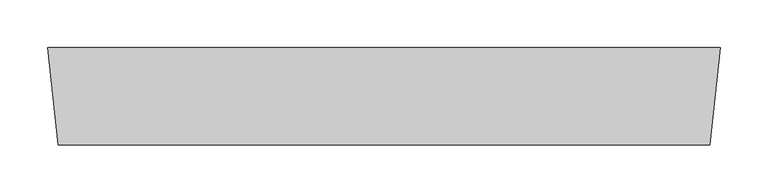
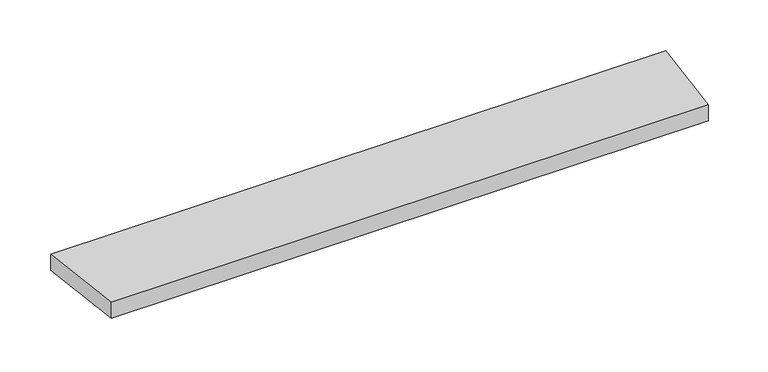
"""IFC4 building model written with IfcOpenShell, lengths in millimetres: proxy geometry, IMPRESS^TABLE 4_2 PC TOP PWR DRAWERS-END KEEL."""

import ifcopenshell
import ifcopenshell.guid

model = None  # the IFC model being written
_history = None  # IfcOwnerHistory: only IFC2X3 demands one
_inside = {}  # id of a spatial element -> (the spatial element, [elements in it])
_under = {}  # id of a project, library or spatial element -> (it, [spatial elements below it])
_declared = {}  # id of a project -> (the project, [libraries it declares])
_typed = {}  # id of a type object -> (the type object, [elements of that type])
_made_of = {}  # id of a material, layer set ... -> (it, [elements and type objects made of it])


def new_model(schema):
    """Start an empty IFC model of exactly this schema.

    Asked for "IFC4X3", IfcOpenShell would pick the latest addendum, in which some entities
    have other attributes; the version numbers below select the first issue.
    IFC2X3 requires an IfcOwnerHistory on every rooted entity: one is made here for all.
    """
    global model, _history
    if schema == "IFC4X3":
        model = ifcopenshell.file(schema_version=(4, 3, 0, 0))
    else:
        model = ifcopenshell.file(schema=schema)
    _inside.clear()
    _under.clear()
    _declared.clear()
    _typed.clear()
    _made_of.clear()
    _history = None
    if model.schema == "IFC2X3":
        org = make("IfcOrganization", Name="unknown")
        user = make(
            "IfcPersonAndOrganization",
            ThePerson=make("IfcPerson", FamilyName="unknown"),
            TheOrganization=org,
        )
        app = make(
            "IfcApplication",
            ApplicationDeveloper=org,
            Version="unknown",
            ApplicationFullName="unknown",
            ApplicationIdentifier="unknown",
        )
        _history = make(
            "IfcOwnerHistory",
            OwningUser=user,
            OwningApplication=app,
            ChangeAction="ADDED",
            CreationDate=0,
        )
    return model


def make(cls, **values):
    """One entity of the class cls with the attributes given. An attribute that is None is left unset."""
    return model.create_entity(
        cls, **{name: value for name, value in values.items() if value is not None}
    )


def rooted(cls, **values):
    """An entity with a GlobalId (a new one), such as an element, a storey or a relation."""
    return make(cls, GlobalId=ifcopenshell.guid.new(), OwnerHistory=_history, **values)


def si_unit(unit_type, name, prefix=None):
    """IfcSIUnit, for example si_unit("LENGTHUNIT", "METRE", prefix="MILLI")."""
    return make("IfcSIUnit", UnitType=unit_type, Prefix=prefix, Name=name)


def assignment(units):
    """IfcUnitAssignment: the units of a project."""
    return None if units is None else make("IfcUnitAssignment", Units=units)


def point(xyz):
    """IfcCartesianPoint."""
    return None if xyz is None else make("IfcCartesianPoint", Coordinates=xyz)


def direction(xyz):
    """IfcDirection."""
    return None if xyz is None else make("IfcDirection", DirectionRatios=xyz)


def frame(location, z_axis=None, x_axis=None):
    """IfcAxis2Placement3D, a coordinate frame: its origin and axes. An axis left out is left unset."""
    return make(
        "IfcAxis2Placement3D",
        Location=point(location),
        Axis=direction(z_axis),
        RefDirection=direction(x_axis),
    )


def origin():
    """The frame at (0, 0, 0) with its axes left unset."""
    return frame((0.0, 0.0, 0.0))


def origin_with_axes():
    """The frame at (0, 0, 0) with the z axis (0, 0, 1) and the x axis (1, 0, 0) written out."""
    return frame((0.0, 0.0, 0.0), z_axis=(0.0, 0.0, 1.0), x_axis=(1.0, 0.0, 0.0))


def place(relative_to, where):
    """IfcLocalPlacement: puts the frame where relative to a parent placement (None: the world)."""
    return make(
        "IfcLocalPlacement", PlacementRelTo=relative_to, RelativePlacement=where
    )


def context(
    kind, dimensions, precision=None, world=None, true_north=None, identifier=None
):
    """IfcGeometricRepresentationContext, for example the 3D "Model" context."""
    return make(
        "IfcGeometricRepresentationContext",
        ContextIdentifier=identifier,
        ContextType=kind,
        CoordinateSpaceDimension=dimensions,
        Precision=precision,
        WorldCoordinateSystem=world,
        TrueNorth=true_north,
    )


def project(units=None, contexts=None):
    """IfcProject with its units and contexts."""
    return rooted(
        "IfcProject",
        Name="project",
        RepresentationContexts=contexts,
        UnitsInContext=assignment(units),
    )


def spatial(cls, under=None, at=None, **own):
    """A site, building, storey or space (cls), placed at a placement, below another one or the project."""
    s = rooted(cls, ObjectPlacement=at, **own)
    if under is not None:
        _under.setdefault(under.id(), (under, []))[1].append(s)
    return s


def polyline(points):
    """IfcPolyline through the points."""
    return make("IfcPolyline", Points=[point(p) for p in points])


def outline(outer, holes=None, kind="AREA"):
    """IfcArbitraryClosedProfileDef: a profile drawn as a closed curve; with holes, ...WithVoids."""
    if holes is None:
        return make("IfcArbitraryClosedProfileDef", ProfileType=kind, OuterCurve=outer)
    return make(
        "IfcArbitraryProfileDefWithVoids",
        ProfileType=kind,
        OuterCurve=outer,
        InnerCurves=holes,
    )


def extrude(swept, where, along, depth):
    """IfcExtrudedAreaSolid: the profile swept, set in the frame where, extruded along a direction by depth."""
    return make(
        "IfcExtrudedAreaSolid",
        SweptArea=swept,
        Position=where,
        ExtrudedDirection=direction(along),
        Depth=depth,
    )


def shape(context_of_items, identifier, shape_type, items):
    """IfcShapeRepresentation: the items that make up one representation, for example the "Body"."""
    return make(
        "IfcShapeRepresentation",
        ContextOfItems=context_of_items,
        RepresentationIdentifier=identifier,
        RepresentationType=shape_type,
        Items=items,
    )


def source(mapping_origin, context_of_items, identifier, shape_type, items):
    """IfcRepresentationMap: a shape defined once, which mapped items show again and again."""
    return make(
        "IfcRepresentationMap",
        MappingOrigin=mapping_origin,
        MappedRepresentation=shape(context_of_items, identifier, shape_type, items),
    )


def transform(
    local_origin,
    x_axis=None,
    y_axis=None,
    z_axis=None,
    scale=None,
    scale2=None,
    scale3=None,
    uniform=True,
):
    """IfcCartesianTransformationOperator3D, or its non-uniform kind. x_axis, y_axis, z_axis: its Axis1, 2, 3."""
    if uniform:
        return make(
            "IfcCartesianTransformationOperator3D",
            Axis1=direction(x_axis),
            Axis2=direction(y_axis),
            LocalOrigin=point(local_origin),
            Scale=scale,
            Axis3=direction(z_axis),
        )
    return make(
        "IfcCartesianTransformationOperator3DnonUniform",
        Axis1=direction(x_axis),
        Axis2=direction(y_axis),
        LocalOrigin=point(local_origin),
        Scale=scale,
        Axis3=direction(z_axis),
        Scale2=scale2,
        Scale3=scale3,
    )


def mapped(mapping_source, mapping_target):
    """IfcMappedItem: shows the shape of a source again, moved by a transform."""
    return make(
        "IfcMappedItem", MappingSource=mapping_source, MappingTarget=mapping_target
    )


def made_of(thing, what):
    """Note that an element or type object is made of a material, layer set ...; save() writes the relation."""
    if what is not None:
        _made_of.setdefault(what.id(), (what, []))[1].append(thing)
    return thing


def element(
    cls,
    number,
    at=None,
    inside=None,
    cuts=None,
    type_object=None,
    material=None,
    context=None,
    identifier="Body",
    shape_type=None,
    held_by="IfcProductDefinitionShape",
    body=None,
    shapes=None,
    **own,
):
    """One element of the class cls, such as IfcWall. Its Tag is "e" and its number.

    at: its placement. inside: the storey or other place that contains it. cuts: it is an
    opening in that element (IfcRelVoidsElement). A single representation is given by context,
    identifier, shape_type and body (its items); several are given by shapes. held_by: the class
    of the entity that holds the representations. save() writes the other relations.
    """
    e = rooted(cls, Tag="e%d" % number, ObjectPlacement=at, **own)
    if body is not None:
        shapes = [shape(context, identifier, shape_type, body)]
    if shapes is not None:
        e.Representation = make(held_by, Representations=shapes)
    if inside is not None:
        _inside.setdefault(inside.id(), (inside, []))[1].append(e)
    if cuts is not None:
        rooted(
            "IfcRelVoidsElement", RelatingBuildingElement=cuts, RelatedOpeningElement=e
        )
    if type_object is not None:
        _typed.setdefault(type_object.id(), (type_object, []))[1].append(e)
    return made_of(e, material)


def aggregate(whole, parts):
    """IfcRelAggregates: a whole, such as a stair, and the parts it consists of."""
    return rooted("IfcRelAggregates", RelatingObject=whole, RelatedObjects=parts)


def save(model, path):
    """Write the relations noted so far, then the file.

    IfcRelAggregates (storeys below a building ...), IfcRelContainedInSpatialStructure (elements
    in a storey), IfcRelDefinesByType, IfcRelAssociatesMaterial and IfcRelDeclares: one each for
    every whole, place, type object, material and project.
    """
    for whole, parts in _under.values():
        aggregate(whole, parts)
    for where, things in _inside.values():
        rooted(
            "IfcRelContainedInSpatialStructure",
            RelatedElements=things,
            RelatingStructure=where,
        )
    for kind, things in _typed.values():
        rooted("IfcRelDefinesByType", RelatedObjects=things, RelatingType=kind)
    for what, things in _made_of.values():
        rooted("IfcRelAssociatesMaterial", RelatedObjects=things, RelatingMaterial=what)
    for by, libraries in _declared.values():
        rooted("IfcRelDeclares", RelatingContext=by, RelatedDefinitions=libraries)
    model.write(path)


def generic_models_a65e8204(model_context):
    return source(origin(), model_context, "Body", "SweptSolid", [
        extrude(outline(polyline([(701.8416867, 0.0), (691.1630964, -101.6), (10.6785903, -101.6), (0.0, 0.0), (701.8416867, 0.0)])), origin_with_axes(), (0.0, 0.0, 1.0), 19.05),
    ])


if __name__ == "__main__":
    model = new_model("IFC4")
    model_context = context("Model", 3, world=origin())
    ifc_project = project(units=[si_unit("LENGTHUNIT", "METRE", prefix="MILLI")], contexts=[model_context])
    site = spatial("IfcSite", under=ifc_project)
    building = spatial("IfcBuilding", under=site)
    placement = place(None, origin())
    generic_models_shape = generic_models_a65e8204(model_context)
    element("IfcBuildingElementProxy", 1, Name="IMPRESS^TABLE 4_2 PC TOP PWR DRAWERS-END KEEL", ObjectType="IMPRESS^TABLE 4_2 PC TOP PWR DRAWERS-END KEEL", at=placement, inside=building, context=model_context, shape_type="MappedRepresentation", body=[
        mapped(generic_models_shape, transform((0.0, 0.0, 0.0), x_axis=(1.0, 0.0, 0.0), y_axis=(0.0, 1.0, 0.0), z_axis=(0.0, 0.0, 1.0))),
    ])
    save(model, "model.ifc")
